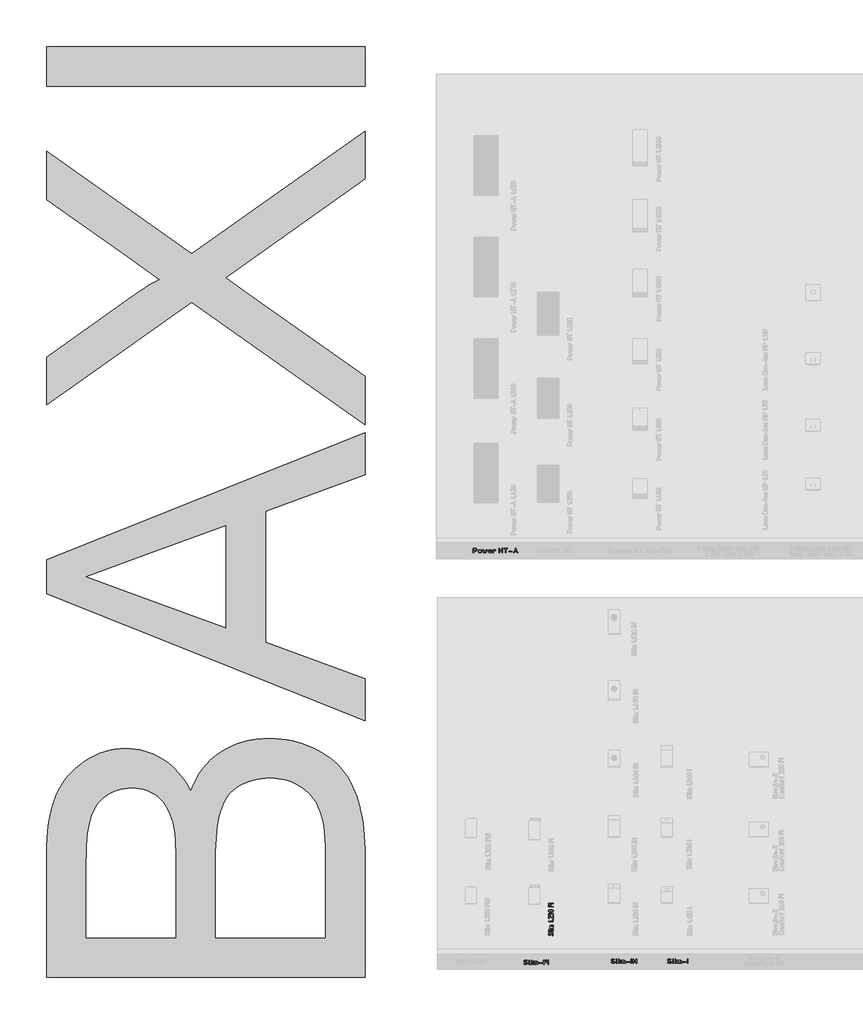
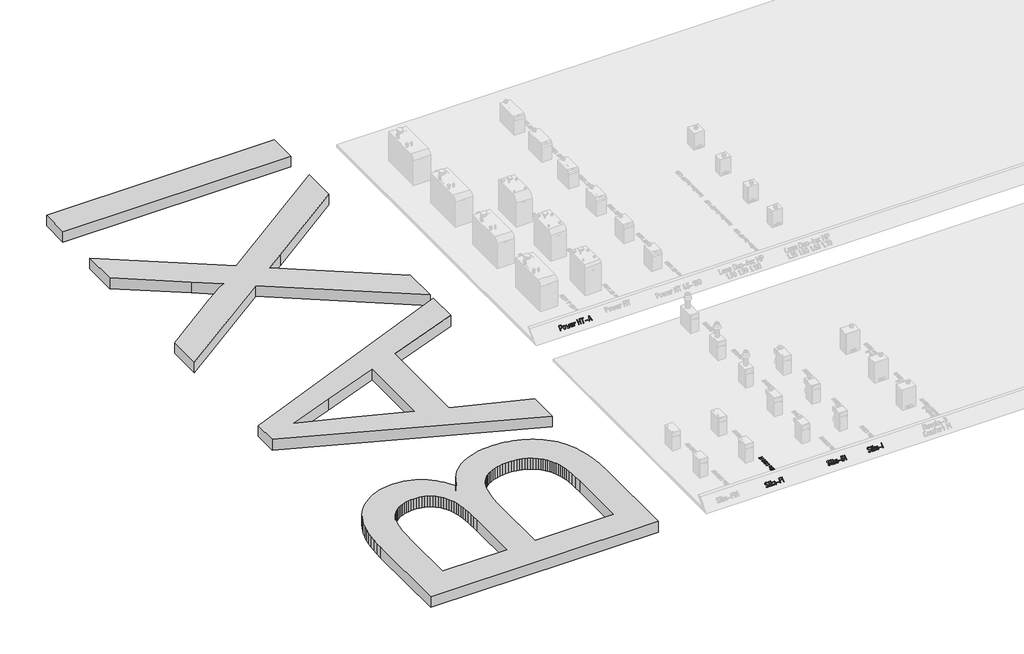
# One storey, part 2 of 37: 6 proxies.
"""IFC4 building model written with IfcOpenShell, lengths in millimetres."""

from ifc_helpers import new_model, si_unit, frame, origin, origin_with_axes, place, context, project, spatial, polyline, outline, extrude, element, save

model = new_model("IFC4")

# Units and contexts
model_context = context("Model", 3, world=origin())
ifc_project = project(units=[si_unit("LENGTHUNIT", "METRE", prefix="MILLI")], contexts=[model_context])

# Site, building, storey
site = spatial("IfcSite", under=ifc_project)
building = spatial("IfcBuilding", under=site)
storey = spatial("IfcBuildingStorey", under=building, Name="01_Стартовый вид_Площадка", Elevation=0.0)

# Proxies
placement = place(None, origin())
element("IfcBuildingElementProxy", 1, Name="200мм", ObjectType="200мм", at=placement, inside=storey, context=model_context, shape_type="SweptSolid", body=[
    extrude(outline(polyline([(14.3630412, 0.0), (32.9877933, -5.8941685), (47.8141757, -18.6996043), (56.9062251, -35.9734936), (58.3279778, -55.2730234), (48.6940131, -89.0636866), (28.465259, -117.438169), (19.8566966, -120.8141148), (13.1935466, -117.0720468), (11.0810971, -109.7937622), (13.5457841, -104.4003933), (30.6225917, -78.9638997), (37.9653489, -53.2828018), (37.1217113, -41.7028614), (31.6871819, -31.4013363), (22.795241, -23.7869323), (11.5793686, -20.2683557), (-4.7487136, -22.4723065), (-17.1284133, -33.4332986), (-52.3598677, -85.2510926), (-61.7270374, -95.9430579), (-72.7554059, -103.0648153), (-85.4449733, -106.6163652), (-99.7957395, -106.5977072), (-118.4228484, -100.723375), (-133.2563013, -87.9774482), (-142.3585636, -70.789516), (-143.7921005, -51.5891677), (-137.3814417, -21.2242169), (-126.4203725, 0.2585198), (-116.4658202, 5.0302038), (-109.8058125, 1.2616874), (-107.7027903, -6.0959424), (-109.2509461, -10.0961908), (-118.5712994, -31.65317), (-123.4294716, -53.5793891), (-122.5740497, -65.0601481), (-117.1293076, -75.2757161), (-108.2302962, -82.8306113), (-97.0120669, -86.3293516), (-80.7315133, -84.1868081), (-68.4943996, -73.4100379), (-33.2692301, -21.6451404), (-23.8161357, -10.8225702), (-12.7263923, -3.6075234), (0.0, 0.0), (14.3630412, 0.0)])), frame((641.6180555, -18027.5378322, 104.1362426), z_axis=(0.0, -0.7071067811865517, 0.7071067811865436), x_axis=(0.11798432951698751, -0.7021679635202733, -0.7021679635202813)), (0.0, 0.0, 1.0), 10.0),
    extrude(outline(polyline([(160.9250531, 0.0), (168.4759059, -2.5569025), (170.9928568, -10.2276101), (168.4759059, -17.8983177), (160.9250531, -20.4552203), (0.0, -20.4552203), (-6.365622, -22.9521954), (-10.014535, -30.4431208), (-13.6767652, -37.9340462), (-20.0823387, -40.4310213), (-27.6331915, -37.9407048), (-30.1501423, -30.4697552), (-28.1525623, -18.1713203), (-22.159822, -8.4431052), (-12.6247063, -2.1107763), (0.0, 0.0), (160.9250531, 0.0)])), frame((684.2231098, -18051.7857907, 79.8882841), z_axis=(0.0, -0.7071067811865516, 0.7071067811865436), x_axis=(0.0, 0.7071067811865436, 0.7071067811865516)), (0.0, 0.0, 1.0), 10.0),
    extrude(outline(polyline([(7.934191, 0.0), (17.4144496, -3.2273221), (23.7006463, -8.0683051), (23.5987196, -16.1366103), (18.7566636, -22.5912544), (10.8224727, -22.5912544), (1.3422141, -19.3639323), (-4.9439827, -14.5229493), (-4.8420559, -6.4546441), (0.0, 0.0), (7.934191, 0.0)])), frame((765.19169, -17950.3492824, 181.3247925), z_axis=(0.0, -0.7071067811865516, 0.7071067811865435), x_axis=(-0.32226379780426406, 0.6693825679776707, 0.6693825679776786)), (0.0, 0.0, 1.0), 10.0),
    extrude(outline(polyline([(-40.4252129, 16.4627758), (-34.1768363, 11.6346677), (-34.2913697, 3.5706542), (-39.120819, -2.8882816), (-47.0171899, -2.9011565), (-160.6290117, 35.7752084), (-166.9152084, 40.6161914), (-166.8132817, 48.6844965), (-161.9712257, 55.1391407), (-154.0370347, 55.1391406), (-40.4252129, 16.4627758)])), frame((765.19169, -17950.3492824, 181.3247925), z_axis=(0.0, -0.7071067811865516, 0.7071067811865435), x_axis=(-0.32226379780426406, 0.6693825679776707, 0.6693825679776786)), (0.0, 0.0, 1.0), 10.0),
    extrude(outline(polyline([(8.0648268, 0.0), (95.6150095, -28.42341), (109.8146859, -36.0716858), (119.6837276, -48.390632), (124.1620709, -63.3839267), (122.1896524, -79.0552479), (94.4406404, -164.5281403), (89.7017562, -170.8444537), (81.6369294, -170.8444537), (75.110059, -166.1072187), (74.9850442, -158.211827), (102.618915, -73.0935938), (103.610512, -65.2736838), (101.3875031, -57.8242881), (96.4501456, -51.7058983), (89.2986962, -47.8790061), (69.8431, -41.5626928), (36.0738519, -145.5792003), (31.3349677, -151.8955137), (23.2701409, -151.8955136), (16.7432706, -147.1582787), (16.6182557, -139.262887), (50.3875038, -35.2463794), (11.4763115, -22.6137527), (-22.2929366, -126.6302603), (-27.0318208, -132.9465736), (-35.0966476, -132.9465736), (-41.6235179, -128.2093386), (-41.7485327, -120.313947), (-4.7388842, -6.3163133), (0.0, 0.0), (8.0648268, 0.0)])), frame((826.5573508, -17976.0285767, 155.6454981), z_axis=(0.0, -0.7071067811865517, 0.7071067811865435), x_axis=(0.951131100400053, 0.21834563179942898, 0.21834563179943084)), (0.0, 0.0, 1.0), 10.0),
    extrude(outline(polyline([(7.934191, 0.0), (83.6754056, -25.7842432), (89.9616024, -30.6252263), (89.8596757, -38.6935314), (85.0176197, -45.1481756), (77.0834286, -45.1481755), (1.3422141, -19.3639323), (-4.9439827, -14.5229492), (-4.8420559, -6.454644), (0.0, 0.0), (7.934191, 0.0)])), frame((1105.1531893, -18035.1370953, 96.5369795), z_axis=(0.0, -0.7071067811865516, 0.7071067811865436), x_axis=(-0.9466499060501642, -0.22787491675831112, -0.22787491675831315)), (0.0, 0.0, 1.0), 10.0),
    extrude(outline(polyline([(7.9720216, 0.0), (179.416636, -58.0553192), (185.7484838, -62.8989575), (185.6722013, -70.971688), (159.9419745, -146.956264), (155.1111501, -153.2502709), (147.0426908, -153.1613747), (140.5802352, -148.3297495), (140.5674213, -140.3955688), (163.0173005, -74.0982694), (104.8936407, -54.4161836), (82.4437616, -120.7134829), (77.6129371, -127.0074898), (69.5444779, -126.9185936), (63.0820222, -122.0869683), (63.0692083, -114.1527876), (85.5190874, -47.8554883), (1.2599626, -19.3232979), (-4.9583623, -14.5181011), (-4.8442389, -6.4581844), (0.0, 0.0), (7.9720216, 0.0)])), frame((1150.4316716, -18071.3254078, 60.348667), z_axis=(0.0, -0.7071067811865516, 0.7071067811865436), x_axis=(-0.3207345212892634, 0.6697497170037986, 0.6697497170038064)), (0.0, 0.0, 1.0), 10.0),
    extrude(outline(polyline([(-40.4252129, 16.4627758), (-34.1768363, 11.6346677), (-34.2913697, 3.5706542), (-39.120819, -2.8882816), (-47.0171899, -2.9011565), (-160.6290117, 35.7752084), (-166.9152084, 40.6161914), (-166.8132817, 48.6844965), (-161.9712257, 55.1391407), (-154.0370347, 55.1391406), (-40.4252129, 16.4627758)])), frame((1290.2090101, -17950.3492824, 181.3247925), z_axis=(0.0, -0.7071067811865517, 0.7071067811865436), x_axis=(-0.3222637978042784, 0.6693825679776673, 0.6693825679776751)), (0.0, 0.0, 1.0), 10.0),
    extrude(outline(polyline([(7.934191, 0.0), (17.4144496, -3.2273221), (23.7006463, -8.0683051), (23.5987196, -16.1366103), (18.7566636, -22.5912544), (10.8224727, -22.5912544), (1.3422141, -19.3639323), (-4.9439827, -14.5229493), (-4.8420559, -6.4546441), (0.0, 0.0), (7.934191, 0.0)])), frame((1290.2090101, -17950.3492824, 181.3247925), z_axis=(0.0, -0.7071067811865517, 0.7071067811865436), x_axis=(-0.3222637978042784, 0.6693825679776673, 0.6693825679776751)), (0.0, 0.0, 1.0), 10.0),
])
element("IfcBuildingElementProxy", 2, Name="150 мм", ObjectType="150 мм", at=placement, inside=storey, context=model_context, shape_type="SweptSolid", body=[
    extrude(outline(polyline([(1416.3639762, -17078.4751307), (1430.7565409, -17081.2168094), (1442.9317916, -17089.4418455), (1451.231737, -17101.5022353), (1453.9983854, -17115.7499754), (1449.8134551, -17141.7684563), (1437.2586641, -17164.690688), (1431.146069, -17167.9667193), (1425.8524817, -17165.7693812), (1423.6351678, -17160.5357214), (1424.9935223, -17156.3008515), (1435.460842, -17135.8456313), (1438.6569702, -17116.0695882), (1437.0039727, -17107.5199454), (1432.0449801, -17100.328657), (1424.7488187, -17095.4445737), (1416.084315, -17093.8165459), (1404.1188102, -17096.9028071), (1395.8688044, -17106.1615909), (1374.2150361, -17147.8710635), (1360.6015276, -17162.9428054), (1340.7755451, -17167.9667193), (1326.3829805, -17165.2400225), (1314.2077297, -17157.059932), (1305.9077844, -17145.0644634), (1303.141136, -17130.8916326), (1305.2286072, -17107.7097155), (1311.4910208, -17090.7402725), (1318.4825512, -17086.3056447), (1323.7761384, -17088.5229586), (1325.9934523, -17093.8165459), (1325.1944203, -17096.9327708), (1320.1605184, -17113.8123227), (1318.4825512, -17130.5720198), (1320.1355487, -17139.0467534), (1325.0945413, -17146.1731204), (1332.3907026, -17151.0122582), (1341.0552063, -17152.6253041), (1352.9907475, -17149.5889824), (1361.1508622, -17140.4800171), (1382.8046305, -17098.8104961), (1396.50803, -17083.5589721), (1416.3639762, -17078.4751307)])), origin_with_axes(), (0.0, 0.0, 1.0), 10.0),
    extrude(outline(polyline([(1310.6919888, -17047.7923003), (1305.0288492, -17045.8746234), (1303.141136, -17040.1215927), (1305.0288492, -17034.368562), (1310.6919888, -17032.4508851), (1431.3857786, -17032.4508851), (1436.1599951, -17030.5781537), (1438.8966798, -17024.9599597), (1441.6433525, -17019.3417657), (1446.4475326, -17017.4690343), (1452.1106722, -17019.3367717), (1453.9983854, -17024.9399839), (1452.5002003, -17034.16381), (1448.0056451, -17041.4599714), (1440.8543083, -17046.2092181), (1431.3857786, -17047.7923003), (1310.6919888, -17047.7923003)])), origin_with_axes(), (0.0, 0.0, 1.0), 10.0),
    extrude(outline(polyline([(1356.4765247, -16988.983542), (1350.8733125, -16987.0658651), (1349.0055751, -16981.3128344), (1350.8733125, -16975.5598037), (1356.4765247, -16973.6421268), (1446.4874842, -16973.6421268), (1452.1206601, -16975.5598037), (1453.9983854, -16981.3128344), (1452.1206601, -16987.0658651), (1446.4874842, -16988.983542), (1356.4765247, -16988.983542)])), origin_with_axes(), (0.0, 0.0, 1.0), 10.0),
    extrude(outline(polyline([(1318.1629383, -16988.983542), (1310.6520371, -16988.983542), (1305.0188613, -16987.0658651), (1303.141136, -16981.3128344), (1305.0188613, -16975.5598037), (1310.6520371, -16973.6421268), (1318.1629383, -16973.6421268), (1323.7961142, -16975.5598037), (1325.6738395, -16981.3128344), (1323.7961142, -16987.0658651), (1318.1629383, -16988.983542)])), origin_with_axes(), (0.0, 0.0, 1.0), 10.0),
    extrude(outline(polyline([(1349.1653816, -16935.2885888), (1349.1653816, -16866.2522205), (1351.332756, -16854.351637), (1357.8348792, -16844.4586215), (1367.493179, -16837.7916979), (1379.1290831, -16835.5693901), (1446.5274358, -16835.5693901), (1452.130648, -16837.487067), (1453.9983854, -16843.2400977), (1452.130648, -16848.9931284), (1446.5274358, -16850.9108053), (1379.4087443, -16850.9108053), (1368.801594, -16855.3254573), (1364.5067967, -16866.2522205), (1364.5067967, -16881.5936357), (1446.5274358, -16881.5936357), (1452.130648, -16883.5113126), (1453.9983854, -16889.2643433), (1452.130648, -16895.0173739), (1446.5274358, -16896.9350508), (1364.5067967, -16896.9350508), (1364.5067967, -16927.6178812), (1446.5274358, -16927.6178812), (1452.130648, -16929.5355581), (1453.9983854, -16935.2885888), (1452.130648, -16941.0416195), (1446.5274358, -16942.9592964), (1356.6363311, -16942.9592964), (1351.0331189, -16941.0416195), (1349.1653816, -16935.2885888)])), origin_with_axes(), (0.0, 0.0, 1.0), 10.0),
    extrude(outline(polyline([(1328.8699677, -16723.0656786), (1346.1690114, -16740.3247707), (1348.3263979, -16745.5584306), (1346.4486726, -16751.1916065), (1340.8154967, -16753.0693318), (1335.5818368, -16750.8719937), (1306.0975545, -16721.5475177), (1303.141136, -16715.394971), (1305.0288492, -16709.6419403), (1310.6919888, -16707.7242634), (1446.4475326, -16707.7242634), (1452.1106722, -16709.6419403), (1453.9983854, -16715.394971), (1452.1106722, -16721.1480017), (1446.4475326, -16723.0656786), (1328.8699677, -16723.0656786)])), origin_with_axes(), (0.0, 0.0, 1.0), 10.0),
    extrude(outline(polyline([(1438.6569702, -16677.041433), (1432.9039395, -16675.1237561), (1430.9862626, -16669.3707254), (1432.9039395, -16663.6176947), (1438.6569702, -16661.7000178), (1446.3276778, -16661.7000178), (1452.0807085, -16663.6176947), (1453.9983854, -16669.3707254), (1452.0807085, -16675.1237561), (1446.3276778, -16677.041433), (1438.6569702, -16677.041433)])), origin_with_axes(), (0.0, 0.0, 1.0), 10.0),
    extrude(outline(polyline([(1303.141136, -16593.8621975), (1305.8928026, -16579.4346752), (1314.1478023, -16567.3143579), (1326.3080712, -16559.0893218), (1340.7755451, -16556.3476431), (1351.5724656, -16558.0555741), (1362.469265, -16563.1793671), (1438.6569702, -16610.4421124), (1438.6569702, -16563.8585443), (1440.5746471, -16558.2253684), (1446.3276778, -16556.3476431), (1452.0807085, -16558.2253684), (1453.9983854, -16563.8585443), (1453.9983854, -16623.8658507), (1452.1206601, -16629.4990265), (1446.4874842, -16631.3767518), (1442.1327596, -16630.0983006), (1353.5201062, -16575.1248961), (1341.0552063, -16571.3694455), (1332.3907026, -16573.0174491), (1325.0945413, -16577.9614599), (1320.1355487, -16585.2326514), (1318.4825512, -16593.8621975), (1323.1968402, -16606.0973756), (1337.3397073, -16617.3936911), (1340.9753031, -16623.8658507), (1339.0975778, -16629.4990265), (1333.4644019, -16631.3767518), (1330.3881286, -16630.657623), (1309.9528841, -16614.4872121), (1304.844073, -16604.7315302), (1303.141136, -16593.8621975)])), origin_with_axes(), (0.0, 0.0, 1.0), 10.0),
    extrude(outline(polyline([(1379.8482119, -16489.8681773), (1379.8482119, -16504.8500281), (1377.930535, -16510.483204), (1372.1775043, -16512.3609293), (1366.4244736, -16510.483204), (1364.5067967, -16504.8500281), (1364.5067967, -16489.8681773), (1362.8338234, -16481.163722), (1357.8149034, -16473.9075123), (1350.3888994, -16469.0084471), (1341.494674, -16467.3754253), (1332.650388, -16469.0234289), (1325.2143961, -16473.9674397), (1320.1655124, -16481.2386312), (1318.4825512, -16489.8681773), (1318.4825512, -16519.8718304), (1316.5648743, -16525.5050063), (1310.8118436, -16527.3827316), (1305.0588129, -16525.5050063), (1303.141136, -16519.8718304), (1303.141136, -16489.8681773), (1305.9577239, -16475.4007034), (1314.4074877, -16463.1605313), (1326.8124602, -16454.8156404), (1341.494674, -16452.0340101), (1358.6938386, -16455.7894607), (1372.1775043, -16467.0558125), (1385.2516661, -16455.7894607), (1401.9414479, -16452.0340101), (1416.8034439, -16452.0340101), (1431.1161053, -16454.8306223), (1443.1315496, -16463.2204587), (1451.2816765, -16475.4756126), (1453.9983854, -16489.8681773), (1453.9983854, -16519.8718304), (1452.0807085, -16525.5050063), (1446.3276778, -16527.3827316), (1440.5746471, -16525.5050063), (1438.6569702, -16519.8718304), (1438.6569702, -16489.8681773), (1437.0539122, -16481.163722), (1432.2447381, -16473.9075123), (1425.128359, -16469.0084471), (1416.6036859, -16467.3754253), (1401.9014963, -16467.3754253), (1393.4267627, -16469.0234289), (1386.3003957, -16473.9674397), (1381.4612579, -16481.2386312), (1379.8482119, -16489.8681773)])), origin_with_axes(), (0.0, 0.0, 1.0), 10.0),
    extrude(outline(polyline([(1378.5697607, -16347.2010063), (1403.7093063, -16348.8290341), (1425.1932803, -16353.7131174), (1446.7971091, -16366.1280778), (1452.1980663, -16374.4854535), (1453.9983854, -16384.276093), (1452.2055573, -16394.0667325), (1446.8270728, -16402.4241082), (1425.3131351, -16414.8390686), (1403.7991974, -16419.7231519), (1378.5697607, -16421.3511797), (1353.340324, -16419.7231519), (1331.8263863, -16414.8390686), (1310.3124485, -16402.4241082), (1304.9339641, -16394.0667325), (1303.141136, -16384.276093), (1304.941455, -16374.4854535), (1310.3424122, -16366.1280778), (1331.9462411, -16353.7131174), (1353.4302151, -16348.8290341), (1378.5697607, -16347.2010063)]), holes=[polyline([(1378.5697607, -16362.5424215), (1343.4123509, -16366.3777753), (1324.7150011, -16373.7688217), (1318.4825512, -16384.276093), (1324.7449648, -16394.6934732), (1343.5322057, -16402.0545559), (1378.5697607, -16406.0097645), (1413.7271705, -16402.1744107), (1432.4245203, -16394.7833643), (1438.6569702, -16384.276093), (1432.4245203, -16373.7688217), (1413.7271705, -16366.3777753), (1378.5697607, -16362.5424215)])]), origin_with_axes(), (0.0, 0.0, 1.0), 10.0),
    extrude(outline(polyline([(1446.4475326, -16265.3801252), (1310.6919888, -16265.3801252), (1305.0288492, -16263.4624483), (1303.141136, -16257.7094176), (1303.141136, -16197.5423049), (1305.0588129, -16191.909129), (1310.8118436, -16190.0314037), (1316.5648743, -16191.909129), (1318.4825512, -16197.5423049), (1318.4825512, -16250.03871), (1364.5067967, -16250.03871), (1364.5067967, -16197.5423049), (1366.4244736, -16191.909129), (1372.1775043, -16190.0314037), (1377.930535, -16191.909129), (1379.8482119, -16197.5423049), (1379.8482119, -16250.03871), (1446.5673874, -16250.03871), (1452.1406359, -16251.9563869), (1453.9983854, -16257.7094176), (1452.1106722, -16263.4624483), (1446.4475326, -16265.3801252)])), origin_with_axes(), (0.0, 0.0, 1.0), 10.0),
    extrude(outline(polyline([(1356.4765247, -16160.5471214), (1350.8733125, -16158.6294445), (1349.0055751, -16152.8764138), (1350.8733125, -16147.1233831), (1356.4765247, -16145.2057062), (1446.4874842, -16145.2057062), (1452.1206601, -16147.1233831), (1453.9983854, -16152.8764138), (1452.1206601, -16158.6294445), (1446.4874842, -16160.5471214), (1356.4765247, -16160.5471214)])), origin_with_axes(), (0.0, 0.0, 1.0), 10.0),
    extrude(outline(polyline([(1318.1629383, -16160.5471214), (1310.6520371, -16160.5471214), (1305.0188613, -16158.6294445), (1303.141136, -16152.8764138), (1305.0188613, -16147.1233831), (1310.6520371, -16145.2057062), (1318.1629383, -16145.2057062), (1323.7961142, -16147.1233831), (1325.6738395, -16152.8764138), (1323.7961142, -16158.6294445), (1318.1629383, -16160.5471214)])), origin_with_axes(), (0.0, 0.0, 1.0), 10.0),
])
element("IfcBuildingElementProxy", 3, Name="200мм", ObjectType="200мм", at=placement, inside=storey, context=model_context, shape_type="SweptSolid", body=[
    extrude(outline(polyline([(7.8835354, 0.0), (54.9822837, -15.8674927), (75.3551696, -27.452775), (89.3245981, -46.3241218), (95.3595377, -69.2676231), (91.9289574, -93.0693684), (80.1317631, -115.1766267), (62.1553061, -129.8058846), (40.1087196, -135.8689667), (16.101136, -132.2776976), (-21.3557463, -119.658534), (-43.2607096, -184.678028), (-48.0307567, -190.8280683), (-56.082337, -190.701191), (-62.5480184, -185.8669629), (-62.5603687, -177.8949509), (-4.7707219, -6.3606027), (0.0, 0.0), (7.8835354, 0.0)]), holes=[polyline([(11.2976149, -22.7350648), (-14.8250741, -100.2738402), (22.3289224, -112.790962), (37.6683221, -114.832067), (52.4892795, -110.4450815), (64.7838936, -100.6679697), (72.5442635, -86.5386961), (74.9157895, -70.5939297), (71.0438718, -55.3703393), (61.898987, -42.9092999), (48.4516115, -35.2521866), (11.2976149, -22.7350648)])]), frame((-1068.2536448, -4953.4242577, 214.0030794), z_axis=(0.0, -0.7071067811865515, 0.7071067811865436), x_axis=(0.9476648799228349, 0.22575570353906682, 0.2257557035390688)), (0.0, 0.0, 1.0), 10.0),
    extrude(outline(polyline([(19.5277269, 0.0), (58.788553, -7.3971647), (76.977393, -14.5033742), (90.8173496, -28.1486773), (98.6171829, -45.8732873), (98.6856532, -65.2174179), (91.5847543, -83.4140342), (77.9948347, -97.0679287), (60.19967, -104.6308689), (40.4830361, -104.5546223), (1.2222101, -97.1574576), (-16.96663, -90.0512481), (-30.8065866, -76.405945), (-38.6064199, -58.6813349), (-38.6748903, -39.3372044), (-31.5717163, -21.3442893), (-17.856617, -7.6733255), (0.0, 0.0), (19.5277269, 0.0)]), holes=[polyline([(5.5853838, -77.1644064), (44.8985576, -84.5714339), (56.5989581, -84.6144501), (67.3060997, -80.1473937), (75.5187712, -72.1612621), (79.7357612, -61.647053), (79.6340604, -50.3191559), (74.8906592, -39.8919599), (66.5432132, -31.8348129), (55.6293778, -27.6170623), (16.316204, -20.2100347), (4.5148066, -20.1276624), (-6.1812392, -24.5358276), (-14.3509512, -32.5097259), (-18.5733473, -43.1245527), (-18.4716465, -54.4524499), (-13.7282453, -64.8796458), (-5.3677123, -72.9392586), (5.5853838, -77.1644064)])]), frame((-906.8957826, -5072.1497959, 95.2775412), z_axis=(0.0, -0.7071067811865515, 0.7071067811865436), x_axis=(-0.1851531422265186, 0.6948806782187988, 0.6948806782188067)), (0.0, 0.0, 1.0), 10.0),
    extrude(outline(polyline([(6.8097789, 0.0), (11.821932, -3.6221802), (13.6484917, -9.9853458), (15.3260849, -67.9620005), (52.0154125, -23.4026528), (57.501394, -19.2791428), (63.6325155, -19.3713874), (69.0021884, -23.678241), (70.1870459, -31.5110195), (60.0974234, -152.7297253), (59.4717637, -155.5555071), (54.794499, -161.5164629), (46.9161712, -161.3491619), (41.5012353, -157.5052507), (40.1805891, -151.0612993), (47.7561137, -60.1641719), (14.1228931, -101.206762), (9.121626, -104.6513281), (2.9503981, -104.2640149), (-2.0210757, -100.8526798), (-3.8264363, -95.0876724), (-5.3848561, -41.8790947), (-55.0617794, -118.5923101), (-60.1191955, -122.861922), (-66.6788824, -122.6235754), (-72.3814385, -117.7248661), (-73.0810085, -110.367062), (-71.8503152, -107.7475416), (-5.5051753, -5.0877823), (0.0, 0.0), (6.8097789, 0.0)])), frame((-664.7291466, -5092.3203307, 75.1070064), z_axis=(0.0, -0.7071067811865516, 0.7071067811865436), x_axis=(-0.946510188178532, -0.2281649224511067, -0.2281649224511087)), (0.0, 0.0, 1.0), 10.0),
    extrude(outline(polyline([(80.0097418, 0.0), (80.0097418, 20.4552203), (74.0969046, 34.8644314), (67.6247451, 39.3989382), (60.0339407, 40.9104405), (10.0145349, 40.9104405), (2.5036337, 43.4673431), (0.0, 51.1380507), (2.5036337, 58.8087582), (10.0145349, 61.3656608), (60.0339407, 61.3656608), (75.5751139, 58.4758283), (88.6392878, 49.8063306), (97.5085435, 36.9285975), (100.464962, 21.4140587), (100.464962, -28.4988095), (96.7561216, -47.6888956), (85.6296004, -63.8160257), (69.309371, -74.7627647), (50.0194058, -78.4116777), (30.5829514, -74.8693023), (14.4624799, -64.2421762), (3.61562, -48.4479761), (0.0, -29.4043792), (0.0, 0.0), (80.0097418, 0.0)]), holes=[polyline([(50.0194058, -60.4600912), (61.5254672, -58.262753), (71.2203893, -51.6707387), (77.8124036, -41.9758166), (80.0097418, -30.4697552), (80.0097418, -20.4552203), (20.0290698, -20.4552203), (20.0290698, -30.4697552), (22.226408, -41.9758166), (28.8184223, -51.6707387), (38.5133444, -58.262753), (50.0194058, -60.4600912)])]), frame((-489.5813231, -5050.4820085, 116.9453286), z_axis=(0.0, -0.7071067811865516, 0.7071067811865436), x_axis=(-1.0, 0.0, 0.0)), (0.0, 0.0, 1.0), 10.0),
    extrude(outline(polyline([(119.8548062, 0.0), (127.3257558, -2.5569026), (129.8160723, -10.2276102), (129.8160723, -70.4746261), (127.2591698, -77.9455757), (119.5884622, -80.4358922), (99.3463172, -80.4358922), (91.835416, -77.9455757), (89.3317822, -70.4746261), (91.835416, -62.9637249), (99.3463172, -60.4600912), (109.3608521, -60.4600912), (109.3608521, -20.4552203), (0.0, -20.4552203), (-7.4709496, -17.8983178), (-9.9612662, -10.2276102), (-7.4709496, -2.5569026), (0.0, 0.0), (119.8548062, 0.0)])), frame((-450.2689467, -5086.8304046, 80.5969326), z_axis=(0.0, -0.7071067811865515, 0.7071067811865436), x_axis=(0.0, 0.7071067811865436, 0.7071067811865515)), (0.0, 0.0, 1.0), 10.0),
    extrude(outline(polyline([(7.9720216, 0.0), (179.416636, -58.0553192), (185.7484838, -62.8989575), (185.6722013, -70.971688), (180.7901214, -77.4170586), (172.704577, -77.378617), (104.8936406, -54.4161836), (79.7443088, -128.6853043), (147.5552451, -151.6477377), (154.0006157, -156.5298177), (153.9621741, -164.6153621), (149.1179351, -171.0735465), (141.1459135, -171.0735465), (-30.2987009, -113.0182273), (-36.6305487, -108.174589), (-36.5542662, -100.1018585), (-31.7478681, -93.6308602), (-23.8893693, -93.5924186), (60.3697555, -122.124609), (85.5190874, -47.8554883), (1.2599626, -19.3232979), (-4.9583624, -14.5181011), (-4.844239, -6.4581844), (0.0, 0.0), (7.9720216, 0.0)])), frame((-260.2058584, -5092.0943303, 75.3330068), z_axis=(0.0, -0.7071067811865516, 0.7071067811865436), x_axis=(-0.3207345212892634, 0.6697497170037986, 0.6697497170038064)), (0.0, 0.0, 1.0), 10.0),
    extrude(outline(polyline([(8.0689489, 0.0), (14.5842428, -4.7601348), (14.6844672, -12.6936928), (-16.4878044, -108.2002271), (-21.2365979, -114.5090936), (-29.3014149, -114.4964337), (-35.8208407, -109.7489588), (-35.9334614, -101.8533807), (-23.5207488, -63.8229421), (-185.7704495, -10.8664425), (-192.1172959, -6.1052527), (-192.117296, 1.9636963), (-187.3571612, 8.4789901), (-179.4236031, 8.5792145), (-17.1739024, -44.377285), (-4.7611898, -6.3468464), (0.0, 0.0), (8.0689489, 0.0)])), frame((-102.317127, -4964.3005265, 203.1268107), z_axis=(0.0, -0.7071067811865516, 0.7071067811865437), x_axis=(-0.31028003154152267, 0.6722076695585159, 0.6722076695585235)), (0.0, 0.0, 1.0), 10.0),
    extrude(outline(polyline([(7.934191, 0.0), (83.6754055, -25.7842432), (89.9616023, -30.6252263), (89.8596756, -38.6935315), (85.0176196, -45.1481755), (77.0834285, -45.1481756), (1.3422141, -19.3639324), (-4.9439827, -14.5229492), (-4.842056, -6.4546441), (0.0, 0.0), (7.934191, 0.0)])), frame((154.7581152, -5055.9060179, 111.5213193), z_axis=(0.0, -0.7071067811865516, 0.7071067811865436), x_axis=(-0.9466499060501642, -0.22787491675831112, -0.22787491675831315)), (0.0, 0.0, 1.0), 10.0),
    extrude(outline(polyline([(3.2318846, 0.0), (10.3278072, -3.5960314), (11.7027411, -11.3972002), (9.0825966, -17.1043608), (3.3872889, -19.7916714), (-42.4174976, -27.4644342), (-53.116695, -98.7924169), (-11.5868463, -119.6192397), (-6.9306409, -123.8592774), (-6.1002809, -130.0840136), (-9.7035557, -137.1384512), (-17.5422587, -138.4942886), (-20.6319088, -137.5460585), (-189.5907265, -51.9814528), (-195.0232954, -47.2613736), (-196.1124431, -40.8766236), (-193.2888243, -35.1595856), (-186.9672896, -32.3372839), (0.0, 0.0), (3.2318846, 0.0)]), holes=[polyline([(-155.2331856, -47.0085122), (-72.3578662, -89.1731484), (-63.6420503, -31.0677089), (-155.2331856, -47.0085122)])]), frame((336.5645391, -5084.4950672, 82.9322699), z_axis=(0.0, -0.7071067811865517, 0.7071067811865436), x_axis=(0.1483404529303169, -0.699283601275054, -0.699283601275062)), (0.0, 0.0, 1.0), 10.0),
])
element("IfcBuildingElementProxy", 4, Name="200мм", ObjectType="200мм", at=placement, inside=storey, context=model_context, shape_type="SweptSolid", body=[
    extrude(outline(polyline([(14.3630412, 0.0), (32.9877933, -5.8941685), (47.8141757, -18.6996042), (56.9062251, -35.9734936), (58.3279778, -55.2730233), (48.6940132, -89.0636865), (28.465259, -117.4381689), (19.8566966, -120.8141148), (13.1935466, -117.0720467), (11.0810971, -109.7937622), (13.5457841, -104.4003933), (30.6225917, -78.9638996), (37.9653489, -53.2828018), (37.1217112, -41.7028614), (31.6871819, -31.4013362), (22.795241, -23.7869322), (11.5793686, -20.2683556), (-4.7487137, -22.4723064), (-17.1284133, -33.4332985), (-52.3598677, -85.2510926), (-61.7270374, -95.9430578), (-72.7554059, -103.0648152), (-85.4449733, -106.6163651), (-99.7957395, -106.5977072), (-118.4228484, -100.723375), (-133.2563014, -87.9774481), (-142.3585636, -70.7895159), (-143.7921005, -51.5891676), (-137.3814417, -21.2242168), (-126.4203725, 0.2585199), (-116.4658202, 5.0302039), (-109.8058125, 1.2616874), (-107.7027903, -6.0959423), (-109.2509462, -10.0961906), (-118.5712994, -31.6531699), (-123.4294716, -53.5793891), (-122.5740498, -65.0601481), (-117.1293076, -75.2757161), (-108.2302961, -82.8306112), (-97.0120669, -86.3293515), (-80.7315133, -84.186808), (-68.4943996, -73.4100378), (-33.2692301, -21.6451404), (-23.8161357, -10.8225702), (-12.7263922, -3.6075233), (0.0, 0.0), (14.3630412, 0.0)])), frame((5179.2240101, -17994.359027, 137.3150478), z_axis=(0.0, -0.7071067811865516, 0.7071067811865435), x_axis=(0.11798432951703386, -0.7021679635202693, -0.7021679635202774)), (0.0, 0.0, 1.0), 10.0),
    extrude(outline(polyline([(160.9250532, 0.0), (168.475906, -2.5569025), (170.9928568, -10.2276101), (168.475906, -17.8983177), (160.9250532, -20.4552202), (0.0, -20.4552202), (-6.365622, -22.9521954), (-10.014535, -30.4431207), (-13.6767652, -37.9340461), (-20.0823387, -40.4310213), (-27.6331915, -37.9407047), (-30.1501423, -30.4697551), (-28.1525623, -18.1713203), (-22.159822, -8.4431052), (-12.6247063, -2.1107763), (0.0, 0.0), (160.9250532, 0.0)])), frame((5221.8290645, -18018.6069855, 113.0670893), z_axis=(0.0, -0.7071067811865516, 0.7071067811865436), x_axis=(0.0, 0.7071067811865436, 0.7071067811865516)), (0.0, 0.0, 1.0), 10.0),
    extrude(outline(polyline([(7.934191, 1e-07), (17.4144496, -3.227322), (23.7006462, -8.0683051), (23.5987195, -16.1366103), (18.7566635, -22.5912544), (10.8224726, -22.5912544), (1.342214, -19.3639323), (-4.9439827, -14.5229493), (-4.842056, -6.4546441), (0.0, 0.0), (7.934191, 1e-07)])), frame((5302.7976447, -17917.1704771, 214.5035977), z_axis=(0.0, -0.7071067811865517, 0.7071067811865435), x_axis=(-0.32226379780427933, 0.669382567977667, 0.6693825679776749)), (0.0, 0.0, 1.0), 10.0),
    extrude(outline(polyline([(-40.4252129, 16.4627759), (-34.1768363, 11.6346677), (-34.2913698, 3.5706542), (-39.1208191, -2.8882816), (-47.0171899, -2.9011565), (-160.6290117, 35.7752084), (-166.9152085, 40.6161914), (-166.8132817, 48.6844966), (-161.9712258, 55.1391407), (-154.0370348, 55.1391408), (-40.4252129, 16.4627759)])), frame((5302.7976447, -17917.1704771, 214.5035977), z_axis=(0.0, -0.7071067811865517, 0.7071067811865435), x_axis=(-0.32226379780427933, 0.669382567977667, 0.6693825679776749)), (0.0, 0.0, 1.0), 10.0),
    extrude(outline(polyline([(8.0648268, 0.0), (95.6150094, -28.42341), (109.8146859, -36.0716858), (119.6837275, -48.3906321), (124.1620708, -63.3839268), (122.1896523, -79.0552479), (94.4406404, -164.5281404), (89.701756, -170.8444537), (81.6369292, -170.8444537), (75.1100589, -166.1072187), (74.9850442, -158.2118271), (102.618915, -73.0935939), (103.6105119, -65.2736839), (101.3875031, -57.8242882), (96.4501456, -51.7058984), (89.2986961, -47.8790061), (69.8431, -41.5626928), (36.0738519, -145.5792004), (31.3349677, -151.8955137), (23.2701408, -151.8955137), (16.7432705, -147.1582787), (16.6182557, -139.2628871), (50.3875038, -35.2463795), (11.4763115, -22.6137528), (-22.2929366, -126.6302604), (-27.0318208, -132.9465737), (-35.0966476, -132.9465737), (-41.6235179, -128.2093387), (-41.7485328, -120.313947), (-4.7388844, -6.3163134), (0.0, 0.0), (8.0648268, 0.0)])), frame((5364.1633055, -17942.8497715, 188.8243034), z_axis=(0.0, -0.7071067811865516, 0.7071067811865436), x_axis=(0.9511311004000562, 0.21834563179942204, 0.2183456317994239)), (0.0, 0.0, 1.0), 10.0),
    extrude(outline(polyline([(7.9341909, 0.0), (83.6754055, -25.7842433), (89.9616023, -30.6252263), (89.8596756, -38.6935314), (85.0176196, -45.1481755), (77.0834286, -45.1481755), (1.342214, -19.3639323), (-4.9439827, -14.5229492), (-4.842056, -6.454644), (0.0, 0.0), (7.9341909, 0.0)])), frame((5642.7591439, -18001.9582901, 129.7157847), z_axis=(0.0, -0.7071067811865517, 0.7071067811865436), x_axis=(-0.9466499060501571, -0.22787491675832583, -0.22787491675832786)), (0.0, 0.0, 1.0), 10.0),
    extrude(outline(polyline([(-40.4252129, 16.4627758), (-34.1768363, 11.6346677), (-34.2913698, 3.5706542), (-39.1208191, -2.8882816), (-47.0171899, -2.9011565), (-160.6290117, 35.7752084), (-166.9152085, 40.6161914), (-166.8132817, 48.6844966), (-161.9712258, 55.1391407), (-154.0370348, 55.1391407), (-40.4252129, 16.4627758)])), frame((5688.0376263, -17917.1704771, 214.5035977), z_axis=(0.0, -0.7071067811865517, 0.7071067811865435), x_axis=(-0.32226379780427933, 0.669382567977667, 0.6693825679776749)), (0.0, 0.0, 1.0), 10.0),
    extrude(outline(polyline([(7.9341909, 0.0), (17.4144495, -3.2273221), (23.7006462, -8.0683051), (23.5987195, -16.1366103), (18.7566635, -22.5912544), (10.8224726, -22.5912544), (1.342214, -19.3639323), (-4.9439827, -14.5229493), (-4.842056, -6.4546441), (0.0, 0.0), (7.9341909, 0.0)])), frame((5688.0376263, -17917.1704771, 214.5035977), z_axis=(0.0, -0.7071067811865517, 0.7071067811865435), x_axis=(-0.32226379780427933, 0.669382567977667, 0.6693825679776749)), (0.0, 0.0, 1.0), 10.0),
])
element("IfcBuildingElementProxy", 5, Name="200мм", ObjectType="200мм", at=placement, inside=storey, context=model_context, shape_type="SweptSolid", body=[
    extrude(outline(polyline([(14.3630412, 0.0), (32.9877933, -5.8941685), (47.8141757, -18.6996043), (56.9062251, -35.9734936), (58.3279778, -55.2730234), (48.6940131, -89.0636866), (28.465259, -117.438169), (19.8566966, -120.8141148), (13.1935466, -117.0720468), (11.0810971, -109.7937622), (13.5457841, -104.4003933), (30.6225917, -78.9638997), (37.9653489, -53.2828018), (37.1217112, -41.7028614), (31.6871819, -31.4013362), (22.795241, -23.7869323), (11.5793686, -20.2683557), (-4.7487137, -22.4723065), (-17.1284133, -33.4332985), (-52.3598677, -85.2510926), (-61.7270374, -95.9430578), (-72.7554059, -103.0648153), (-85.4449733, -106.6163651), (-99.7957395, -106.5977072), (-118.4228484, -100.723375), (-133.2563014, -87.9774482), (-142.3585636, -70.7895159), (-143.7921005, -51.5891677), (-137.3814417, -21.2242169), (-126.4203725, 0.2585198), (-116.4658202, 5.0302038), (-109.8058125, 1.2616874), (-107.7027903, -6.0959424), (-109.2509462, -10.0961907), (-118.5712994, -31.65317), (-123.4294716, -53.5793891), (-122.5740498, -65.0601481), (-117.1293076, -75.2757161), (-108.2302962, -82.8306113), (-97.0120669, -86.3293516), (-80.7315133, -84.1868081), (-68.4943996, -73.4100378), (-33.2692301, -21.6451404), (-23.8161357, -10.8225702), (-12.7263923, -3.6075234), (0.0, 0.0), (14.3630412, 0.0)])), frame((3399.1077308, -17994.359027, 137.3150478), z_axis=(0.0, -0.7071067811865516, 0.7071067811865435), x_axis=(0.11798432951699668, -0.7021679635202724, -0.7021679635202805)), (0.0, 0.0, 1.0), 10.0),
    extrude(outline(polyline([(160.9250532, 0.0), (168.475906, -2.5569025), (170.9928568, -10.2276101), (168.475906, -17.8983177), (160.9250532, -20.4552203), (0.0, -20.4552203), (-6.365622, -22.9521954), (-10.014535, -30.4431208), (-13.6767652, -37.9340462), (-20.0823387, -40.4310213), (-27.6331915, -37.9407048), (-30.1501423, -30.4697552), (-28.1525623, -18.1713203), (-22.159822, -8.4431052), (-12.6247063, -2.1107763), (0.0, 0.0), (160.9250532, 0.0)])), frame((3441.7127851, -18018.6069855, 113.0670893), z_axis=(0.0, -0.7071067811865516, 0.7071067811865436), x_axis=(0.0, 0.7071067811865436, 0.7071067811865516)), (0.0, 0.0, 1.0), 10.0),
    extrude(outline(polyline([(7.9341909, 0.0), (17.4144495, -3.2273221), (23.7006462, -8.0683051), (23.5987195, -16.1366103), (18.7566635, -22.5912544), (10.8224726, -22.5912544), (1.342214, -19.3639323), (-4.9439827, -14.5229493), (-4.842056, -6.4546441), (0.0, 0.0), (7.9341909, 0.0)])), frame((3522.6813653, -17917.1704771, 214.5035977), z_axis=(0.0, -0.7071067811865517, 0.7071067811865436), x_axis=(-0.3222637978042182, 0.6693825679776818, 0.6693825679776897)), (0.0, 0.0, 1.0), 10.0),
    extrude(outline(polyline([(-40.4252129, 16.4627758), (-34.1768363, 11.6346677), (-34.2913698, 3.5706542), (-39.1208191, -2.8882816), (-47.0171899, -2.9011565), (-160.6290117, 35.7752084), (-166.9152085, 40.6161914), (-166.8132817, 48.6844966), (-161.9712258, 55.1391407), (-154.0370348, 55.1391407), (-40.4252129, 16.4627758)])), frame((3522.6813653, -17917.1704771, 214.5035977), z_axis=(0.0, -0.7071067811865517, 0.7071067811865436), x_axis=(-0.3222637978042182, 0.6693825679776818, 0.6693825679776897)), (0.0, 0.0, 1.0), 10.0),
    extrude(outline(polyline([(8.0648268, 0.0), (95.6150095, -28.42341), (109.8146859, -36.0716858), (119.6837275, -48.3906321), (124.1620709, -63.3839268), (122.1896523, -79.0552479), (94.4406404, -164.5281404), (89.7017561, -170.8444537), (81.6369293, -170.8444537), (75.110059, -166.1072187), (74.9850442, -158.2118271), (102.618915, -73.0935939), (103.610512, -65.2736839), (101.3875031, -57.8242882), (96.4501456, -51.7058984), (89.2986962, -47.8790062), (69.8431, -41.5626928), (36.0738519, -145.5792004), (31.3349677, -151.8955137), (23.2701408, -151.8955137), (16.7432705, -147.1582787), (16.6182558, -139.2628871), (50.3875039, -35.2463795), (11.4763115, -22.6137528), (-22.2929366, -126.6302604), (-27.0318208, -132.9465737), (-35.0966476, -132.9465737), (-41.6235179, -128.2093387), (-41.7485327, -120.3139471), (-4.7388843, -6.3163134), (0.0, 0.0), (8.0648268, 0.0)])), frame((3584.0470261, -17942.8497715, 188.8243034), z_axis=(0.0, -0.7071067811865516, 0.7071067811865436), x_axis=(0.9511311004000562, 0.21834563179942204, 0.2183456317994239)), (0.0, 0.0, 1.0), 10.0),
    extrude(outline(polyline([(7.934191, 0.0), (83.6754056, -25.7842433), (89.9616024, -30.6252263), (89.8596757, -38.6935314), (85.0176197, -45.1481756), (77.0834286, -45.1481755), (1.3422141, -19.3639323), (-4.9439827, -14.5229492), (-4.8420559, -6.454644), (0.0, 0.0), (7.934191, 0.0)])), frame((3862.6428646, -18001.9582901, 129.7157847), z_axis=(0.0, -0.7071067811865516, 0.7071067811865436), x_axis=(-0.9466499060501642, -0.22787491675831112, -0.22787491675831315)), (0.0, 0.0, 1.0), 10.0),
    extrude(outline(polyline([(-40.4252129, 16.4627758), (-34.1768363, 11.6346677), (-34.2913698, 3.5706542), (-39.1208191, -2.8882816), (-47.0171899, -2.9011566), (-160.6290118, 35.7752083), (-166.9152085, 40.6161914), (-166.8132817, 48.6844966), (-161.9712258, 55.1391407), (-154.0370348, 55.1391407), (-40.4252129, 16.4627758)])), frame((3907.9213469, -17917.1704771, 214.5035977), z_axis=(0.0, -0.7071067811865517, 0.7071067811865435), x_axis=(-0.32226379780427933, 0.669382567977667, 0.6693825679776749)), (0.0, 0.0, 1.0), 10.0),
    extrude(outline(polyline([(7.9341909, 0.0), (17.4144495, -3.2273221), (23.7006462, -8.0683051), (23.5987195, -16.1366103), (18.7566635, -22.5912544), (10.8224726, -22.5912545), (1.342214, -19.3639324), (-4.9439827, -14.5229493), (-4.842056, -6.4546441), (0.0, 0.0), (7.9341909, 0.0)])), frame((3907.9213469, -17917.1704771, 214.5035977), z_axis=(0.0, -0.7071067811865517, 0.7071067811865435), x_axis=(-0.32226379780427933, 0.669382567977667, 0.6693825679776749)), (0.0, 0.0, 1.0), 10.0),
    extrude(outline(polyline([(165.9671598, -1e-07), (40.6608855, 67.1707339), (35.2139132, 72.9916979), (36.6196324, 80.9414621), (42.4620104, 86.5129445), (50.3250151, 85.1990627), (209.8569446, -0.3184174), (215.2284159, -6.2802276), (213.5961937, -14.6525308), (204.6529484, -20.7376115), (37.6998644, -20.2091043), (163.1469849, -87.4553393), (168.5939573, -93.2763033), (167.1882381, -101.2260675), (161.3458601, -106.7975499), (153.4828553, -105.4836681), (-6.0490741, -19.966188), (-11.4457125, -14.0513266), (-9.8889913, -5.8198698), (-5.9444737, -1.6183992), (0.0, 0.0), (165.9671598, -1e-07)])), frame((3987.1853255, -17901.9154508, 229.758624), z_axis=(0.0, -0.7071067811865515, 0.7071067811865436), x_axis=(0.47245297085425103, -0.6232127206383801, -0.6232127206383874)), (0.0, 0.0, 1.0), 10.0),
])
element("IfcBuildingElementProxy", 6, Name="10000", ObjectType="10000", at=placement, inside=storey, context=model_context, shape_type="SweptSolid", body=[
    extrude(outline(polyline([(-4487.0568202, -18487.1261603), (-14532.6878351, -18487.1261603), (-14532.6878351, -14653.7957706), (-14528.0701497, -14368.5531006), (-14514.2170933, -14097.7574633), (-14491.128666, -13841.4088584), (-14458.8048678, -13599.507286), (-14417.2456986, -13372.0527462), (-14366.4511586, -13159.0452389), (-14306.4212476, -12960.4847641), (-14237.1559657, -12776.3713218), (-14158.3104235, -12604.271526), (-14069.5397316, -12441.7519904), (-13970.8438901, -12288.8127151), (-13862.2228989, -12145.4537001), (-13743.6767581, -12011.6749454), (-13615.2054676, -11887.476451), (-13476.8090274, -11772.8582169), (-13328.4874376, -11667.820243), (-13174.2835679, -11573.8378896), (-13018.2402883, -11492.3865166), (-12860.3575987, -11423.4661241), (-12700.6354991, -11367.076712), (-12539.0739896, -11323.2182804), (-12375.6730701, -11291.8908292), (-12210.4327406, -11273.0943585), (-12043.3530011, -11266.8288683), (-11888.7467605, -11272.0980115), (-11736.4014614, -11287.9054409), (-11586.3171036, -11314.2511567), (-11438.4936874, -11351.1351589), (-11292.9312125, -11398.5574473), (-11149.6296791, -11456.5180221), (-11008.5890871, -11525.0168831), (-10869.8094365, -11604.0540305), (-10735.4750267, -11693.7444274), (-10607.770157, -11794.2030368), (-10486.6948274, -11905.4298588), (-10372.249038, -12027.4248933), (-10264.4327887, -12160.1881404), (-10163.2460795, -12303.7196001), (-10068.6889104, -12458.0192724), (-9980.7612815, -12623.0871572), (-9906.0352512, -12427.7839709), (-9819.1997719, -12244.0920601), (-9720.2548436, -12072.0114247), (-9609.2004663, -11911.5420648), (-9486.03664, -11762.6839804), (-9350.7633647, -11625.4371715), (-9203.3806404, -11499.8016381), (-9043.8884671, -11385.7773801), (-8874.6244283, -11284.3224236), (-8697.9261075, -11196.3947946), (-8513.7935047, -11121.9944932), (-8322.2266199, -11061.1215193), (-8123.2254531, -11013.775873), (-7916.7900044, -10979.9575541), (-7702.9202736, -10959.6665628), (-7481.6162609, -10952.9028991), (-7301.7181332, -10957.5205845), (-7125.0006518, -10971.3736409), (-6951.4638169, -10994.4620682), (-6781.1076284, -11026.7858664), (-6613.9320863, -11068.3450356), (-6449.9371907, -11119.1395756), (-6289.1229414, -11179.1694866), (-6131.4893386, -11248.4347685), (-5979.9296208, -11324.5211958), (-5837.3370266, -11405.0145427), (-5703.7115561, -11489.9148094), (-5579.0532092, -11579.2219959), (-5463.3619859, -11672.936102), (-5356.6378863, -11771.0571279), (-5258.8809103, -11873.5850736), (-5170.0910579, -11980.5199389), (-5088.3522771, -12093.0879974), (-5011.7485158, -12212.5155221), (-4940.279774, -12338.8025133), (-4873.9460518, -12471.9489708), (-4812.747349, -12611.9548947), (-4756.6836658, -12758.820285), (-4705.7550021, -12912.5451416), (-4659.9613579, -13073.1294646), (-4619.4368569, -13241.7995273), (-4584.3156226, -13419.781603), (-4554.5976552, -13607.0756917), (-4530.2829546, -13803.6817934), (-4511.3715208, -14009.5999081), (-4497.8633538, -14224.8300358), (-4489.7584536, -14449.3721765), (-4487.0568202, -14683.2263302), (-4487.0568202, -18487.1261603)]), holes=[polyline([(-10451.6502353, -17231.4222834), (-10451.6502353, -14938.2911802), (-10453.3363611, -14712.9634581), (-10458.3947385, -14504.1904258), (-10466.8253676, -14311.9720834), (-10478.6282483, -14136.3084307), (-10493.8033806, -13977.1994678), (-10512.3507645, -13834.6451946), (-10534.2704, -13708.6456113), (-10559.5622872, -13599.2007177), (-10597.4043154, -13469.6564381), (-10641.0328207, -13348.3511823), (-10690.4478033, -13235.2849503), (-10745.6492631, -13130.4577422), (-10806.6372001, -13033.8695579), (-10873.4116143, -12945.5203975), (-10945.9725058, -12865.410261), (-11024.3198745, -12793.5391483), (-11108.185473, -12730.0220225), (-11197.3010543, -12674.9738469), (-11291.6666181, -12628.3946214), (-11391.2821646, -12590.2843459), (-11496.1476938, -12560.6430206), (-11606.2632056, -12539.4706454), (-11721.6287, -12526.7672202), (-11842.2441771, -12522.5327452), (-11956.9773743, -12526.4798124), (-12068.1850358, -12538.3210141), (-12175.8671614, -12558.0563503), (-12280.0237513, -12585.685821), (-12380.6548054, -12621.2094262), (-12477.7603237, -12664.6271658), (-12571.3403063, -12715.9390399), (-12661.394753, -12775.1450485), (-12746.2183776, -12841.708697), (-12824.1058938, -12915.0934909), (-12895.0573015, -12995.29943), (-12959.0726008, -13082.3265145), (-13016.1517916, -13176.1747443), (-13066.2948739, -13276.8441194), (-13109.5018478, -13384.3346399), (-13145.7727133, -13498.6463057), (-13176.5253488, -13626.8685094), (-13203.177633, -13776.0906437), (-13225.7295657, -13946.3127086), (-13244.181147, -14137.534704), (-13258.5323769, -14349.75663), (-13268.7832554, -14582.9784865), (-13274.9337825, -14837.2002736), (-13276.9839583, -15112.4219912), (-13276.9839583, -17231.4222834), (-10451.6502353, -17231.4222834)]), polyline([(-5742.760697, -17231.4222834), (-5742.760697, -14656.2483172), (-5745.8263803, -14349.6799879), (-5755.0234302, -14092.1625913), (-5770.3518467, -13883.6961273), (-5791.8116297, -13724.2805961), (-5813.7887468, -13608.9534227), (-5839.2530787, -13498.4163795), (-5868.2046253, -13392.6694664), (-5900.6433866, -13291.7126834), (-5936.5693627, -13195.5460306), (-5975.9825536, -13104.169508), (-6018.8829591, -13017.5831154), (-6065.2705795, -12935.7868531), (-6116.1034406, -12858.1484237), (-6172.3395685, -12784.0355301), (-6233.9789632, -12713.4481722), (-6301.0216247, -12646.3863502), (-6373.467553, -12582.850064), (-6451.3167482, -12522.8393135), (-6534.5692101, -12466.3540988), (-6623.2249388, -12413.3944199), (-6716.3833899, -12365.3973159), (-6813.1440188, -12323.7998257), (-6913.5068256, -12288.6019494), (-7017.4718103, -12259.8036869), (-7125.0389729, -12237.4050384), (-7236.2083133, -12221.4060037), (-7350.9798316, -12211.8065829), (-7469.3535277, -12208.6067759), (-7607.4625601, -12212.362238), (-7740.9730675, -12223.6286241), (-7869.88505, -12242.4059343), (-7994.1985075, -12268.6941685), (-8113.9134401, -12302.4933268), (-8229.0298478, -12343.8034092), (-8339.5477305, -12392.6244156), (-8445.4670883, -12448.9563461), (-8545.2359189, -12513.6997452), (-8637.3022203, -12587.7551572), (-8721.6659925, -12671.1225823), (-8798.3272353, -12763.8020203), (-8867.2859489, -12865.7934714), (-8928.5421332, -12977.0969355), (-8982.0957882, -13097.7124125), (-9027.946914, -13227.6399026), (-9067.3217838, -13369.6385206), (-9101.4466709, -13526.4673816), (-9130.3215754, -13698.1264855), (-9153.9464973, -13884.6158323), (-9172.3214365, -14085.9354221), (-9185.4463931, -14302.0852547), (-9193.3213671, -14533.0653304), (-9195.9463584, -14778.8756489), (-9195.9463584, -17231.4222834), (-5742.760697, -17231.4222834)])]), origin_with_axes(), (0.0, 0.0, 1.0), 500.0),
    extrude(outline(polyline([(-4487.0568202, -10396.174813), (-14532.6878351, -6386.2610656), (-14532.6878351, -5316.950733), (-4487.0568202, -1307.0369855), (-4487.0568202, -2633.8647148), (-7626.3165123, -3784.1090864), (-7626.3165123, -7921.5552588), (-4487.0568202, -9069.3470838), (-4487.0568202, -10396.174813)]), holes=[polyline([(-8882.0203892, -7460.4764915), (-8882.0203892, -4242.7353071), (-11351.7348502, -5147.7250152), (-13276.9839583, -5851.6058993), (-11567.558954, -6477.0052911), (-8882.0203892, -7460.4764915)])]), origin_with_axes(), (0.0, 0.0, 1.0), 500.0),
    extrude(outline(polyline([(-4487.0568202, -1064.2348687), (-9961.1409084, 2808.3362672), (-14532.6878351, -436.3829303), (-14532.6878351, 1069.4807033), (-11959.9664155, 2896.627946), (-11596.5296611, 3146.6344186), (-11442.9772492, 3247.610362), (-11308.2021474, 3332.5681103), (-11192.2043558, 3401.5076634), (-11094.9838744, 3454.4290212), (-11016.5407031, 3491.3321838), (-10956.874842, 3512.2171513), (-11977.134242, 4233.2658618), (-14532.6878351, 6040.7927315), (-14532.6878351, 7568.7292848), (-9946.4256286, 4324.0100873), (-4487.0568202, 8196.5812232), (-4487.0568202, 6690.7175896), (-8126.6360258, 4110.6385301), (-8882.0203892, 3573.5308171), (-8053.0596267, 2982.4670782), (-4487.0568202, 463.7016846), (-4487.0568202, -1064.2348687)])), origin_with_axes(), (0.0, 0.0, 1.0), 500.0),
    extrude(outline(polyline([(-4487.0568202, 9609.2480847), (-14532.6878351, 9609.2480847), (-14532.6878351, 10864.9519615), (-4487.0568202, 10864.9519615), (-4487.0568202, 9609.2480847)])), origin_with_axes(), (0.0, 0.0, 1.0), 500.0),
])

save(model, "model.ifc")
